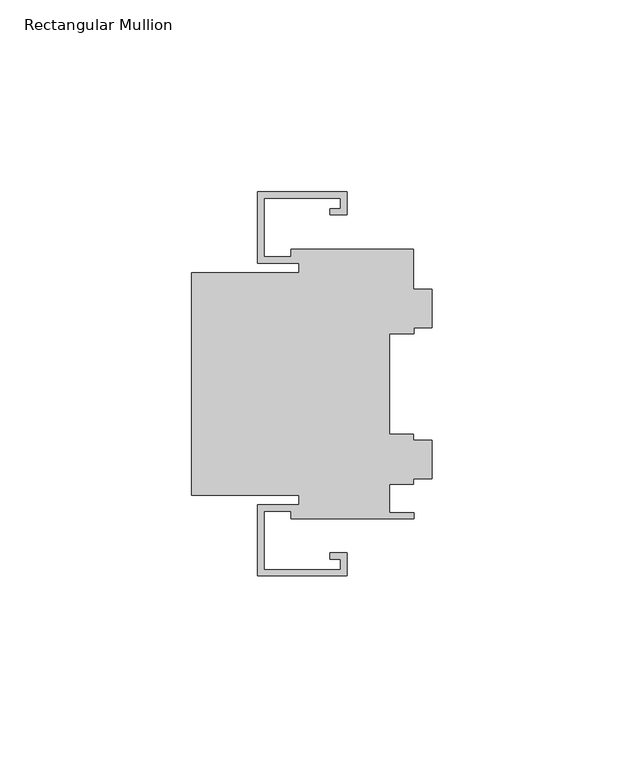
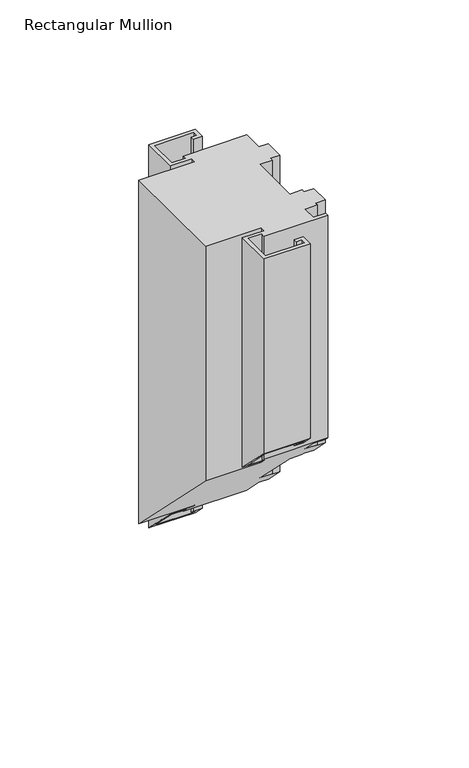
"""IFC4 building model written with IfcOpenShell, lengths in millimetres: member geometry, Rectangular Mullion : Frame-Teknion-OptosLP-Ceiling_Top_Spacer."""

from ifc_helpers import new_model, si_unit, origin, place, context, project, spatial, faceted_brep, source, transform, mapped, element, save


def rectangular_mullion_b762e609(model_context):
    return source(origin(), model_context, "Body", "Brep", [
        faceted_brep([(-22.1967604, 49.9999002, 0.0), (-45.4377611, 49.9999002, 0.0), (-45.4377611, 31.457901, 0.0), (-34.6173606, 31.457901, 0.0), (-34.6173606, 28.9941, 0.0), (-62.608161, 28.9941, 0.0), (-62.608161, -28.9941, 0.0), (-34.6173606, -28.9941, 0.0), (-34.6173606, -31.457901, 0.0), (-45.4377611, -31.457901, 0.0), (-45.4377611, -49.9999002, 0.0), (-22.1967604, -49.9999002, 0.0), (-22.1967604, -44.030901, 0.0), (-26.6417618, -44.030901, 0.0), (-26.6417618, -45.6819013, 0.0), (-23.8477606, -45.6819013, 0.0), (-23.8477606, -48.3488999, 0.0), (-43.7867608, -48.3488999, 0.0), (-43.7867608, -33.1089012, 0.0), (-36.801761, -33.1089012, 0.0), (-36.801761, -35.1409018, 0.0), (-4.7762384, -35.1409018, 0.0), (-4.7762384, -33.4899016, 0.0), (-11.1450644, -33.4899016, 0.0), (-11.1450644, -26.1620004, 0.0), (-4.7977622, -26.1620004, 0.0), (-4.7977622, -24.6323263, 0.0), (0.0, -24.6323263, 0.0), (0.0, -14.6111051, 0.0), (-4.7977622, -14.6111051, 0.0), (-4.7977622, -13.0810002, 0.0), (-11.1477617, -13.0810002, 0.0), (-11.1477617, 13.0810002, 0.0), (-4.7762384, 13.0810002, 0.0), (-4.7762384, 14.6103429, 0.0), (0.0, 14.6103429, 0.0), (0.0, 24.6315641, 0.0), (-4.7977622, 24.6315641, 0.0), (-4.7977622, 35.1409018, 0.0), (-36.801761, 35.1409018, 0.0), (-36.801761, 33.1089012, 0.0), (-43.7867608, 33.1089012, 0.0), (-43.7867608, 48.3488999, 0.0), (-23.8477606, 48.3488999, 0.0), (-23.8477606, 45.6819013, 0.0), (-26.6417618, 45.6819013, 0.0), (-26.6417618, 44.030901, 0.0), (-22.1967604, 44.030901, 0.0), (-22.1967604, 49.9999002, -203.6407062), (-45.4377611, 49.9999002, -203.6407062), (-45.4377611, 31.457901, -185.098707), (-34.6173606, 31.457901, -185.098707), (-34.6173606, 28.9941, -182.634906), (-62.608161, 28.9941, -182.634906), (-62.608161, -28.9941, -124.646706), (-34.6173606, -28.9941, -124.646706), (-34.6173606, -31.457901, -122.182905), (-45.4377611, -31.457901, -122.182905), (-45.4377611, -49.9999002, -103.6409059), (-22.1967604, -49.9999002, -103.6409059), (-22.1967604, -44.030901, -109.609905), (-26.6417618, -44.030901, -109.609905), (-26.6417618, -45.6819013, -107.9589048), (-23.8477606, -45.6819013, -107.9589048), (-23.8477606, -48.3488999, -105.2919061), (-43.7867608, -48.3488999, -105.2919061), (-43.7867608, -33.1089012, -120.5319048), (-36.801761, -33.1089012, -120.5319048), (-36.801761, -35.1409018, -118.4999042), (-4.7762384, -35.1409018, -118.4999042), (-4.7762384, -33.4899016, -120.1509045), (-11.1450644, -33.4899016, -120.1509045), (-11.1450644, -26.1620004, -127.4788057), (-4.7977622, -26.1620004, -127.4788057), (-4.7977622, -24.6323263, -129.0084798), (0.0, -24.6323263, -129.0084798), (0.0, -14.6111051, -139.0297009), (-4.7977622, -14.6111051, -139.0297009), (-4.7977622, -13.0810002, -140.5598059), (-11.1477617, -13.0810002, -140.5598059), (-11.1477617, 13.0810002, -166.7218062), (-4.7762384, 13.0810002, -166.7218062), (-4.7762384, 14.6103429, -168.251149), (0.0, 14.6103429, -168.251149), (0.0, 24.6315641, -178.2723701), (-4.7977622, 24.6315641, -178.2723701), (-4.7977622, 35.1409018, -188.7817078), (-36.801761, 35.1409018, -188.7817078), (-36.801761, 33.1089012, -186.7497073), (-43.7867608, 33.1089012, -186.7497073), (-43.7867608, 48.3488999, -201.989706), (-23.8477606, 48.3488999, -201.989706), (-23.8477606, 45.6819013, -199.3227073), (-26.6417618, 45.6819013, -199.3227073), (-26.6417618, 44.030901, -197.6717071), (-22.1967604, 44.030901, -197.6717071)], [[[0, 1, 2, 3, 4, 5, 6, 7, 8, 9, 10, 11, 12, 13, 14, 15, 16, 17, 18, 19, 20, 21, 22, 23, 24, 25, 26, 27, 28, 29, 30, 31, 32, 33, 34, 35, 36, 37, 38, 39, 40, 41, 42, 43, 44, 45, 46, 47]], [[1, 0, 48, 49]], [[2, 1, 49, 50]], [[3, 2, 50, 51]], [[4, 3, 51, 52]], [[5, 4, 52, 53]], [[6, 5, 53, 54]], [[7, 6, 54, 55]], [[8, 7, 55, 56]], [[9, 8, 56, 57]], [[10, 9, 57, 58]], [[11, 10, 58, 59]], [[12, 11, 59, 60]], [[13, 12, 60, 61]], [[14, 13, 61, 62]], [[15, 14, 62, 63]], [[16, 15, 63, 64]], [[17, 16, 64, 65]], [[18, 17, 65, 66]], [[19, 18, 66, 67]], [[20, 19, 67, 68]], [[21, 20, 68, 69]], [[22, 21, 69, 70]], [[23, 22, 70, 71]], [[24, 23, 71, 72]], [[25, 24, 72, 73]], [[26, 25, 73, 74]], [[27, 26, 74, 75]], [[28, 27, 75, 76]], [[29, 28, 76, 77]], [[30, 29, 77, 78]], [[31, 30, 78, 79]], [[32, 31, 79, 80]], [[33, 32, 80, 81]], [[34, 33, 81, 82]], [[35, 34, 82, 83]], [[36, 35, 83, 84]], [[37, 36, 84, 85]], [[38, 37, 85, 86]], [[39, 38, 86, 87]], [[40, 39, 87, 88]], [[41, 40, 88, 89]], [[42, 41, 89, 90]], [[43, 42, 90, 91]], [[44, 43, 91, 92]], [[45, 44, 92, 93]], [[46, 45, 93, 94]], [[47, 46, 94, 95]], [[0, 47, 95, 48]], [[48, 95, 94, 93, 92, 91, 90, 89, 88, 87, 86, 85, 84, 83, 82, 81, 80, 79, 78, 77, 76, 75, 74, 73, 72, 71, 70, 69, 68, 67, 66, 65, 64, 63, 62, 61, 60, 59, 58, 57, 56, 55, 54, 53, 52, 51, 50, 49]]]),
    ])


if __name__ == "__main__":
    model = new_model("IFC4")
    model_context = context("Model", 3, world=origin())
    ifc_project = project(units=[si_unit("LENGTHUNIT", "METRE", prefix="MILLI")], contexts=[model_context])
    site = spatial("IfcSite", under=ifc_project)
    building = spatial("IfcBuilding", under=site)
    placement = place(None, origin())
    rectangular_mullion_shape = rectangular_mullion_b762e609(model_context)
    element("IfcMember", 1, ObjectType="Rectangular Mullion : Frame-Teknion-OptosLP-Ceiling_Top_Spacer", at=placement, inside=building, context=model_context, shape_type="MappedRepresentation", body=[
        mapped(rectangular_mullion_shape, transform((0.0, 0.0, 0.0), x_axis=(1.0, 0.0, 0.0), y_axis=(0.0, 1.0, 0.0), z_axis=(0.0, 0.0, 1.0))),
    ])
    save(model, "model.ifc")
